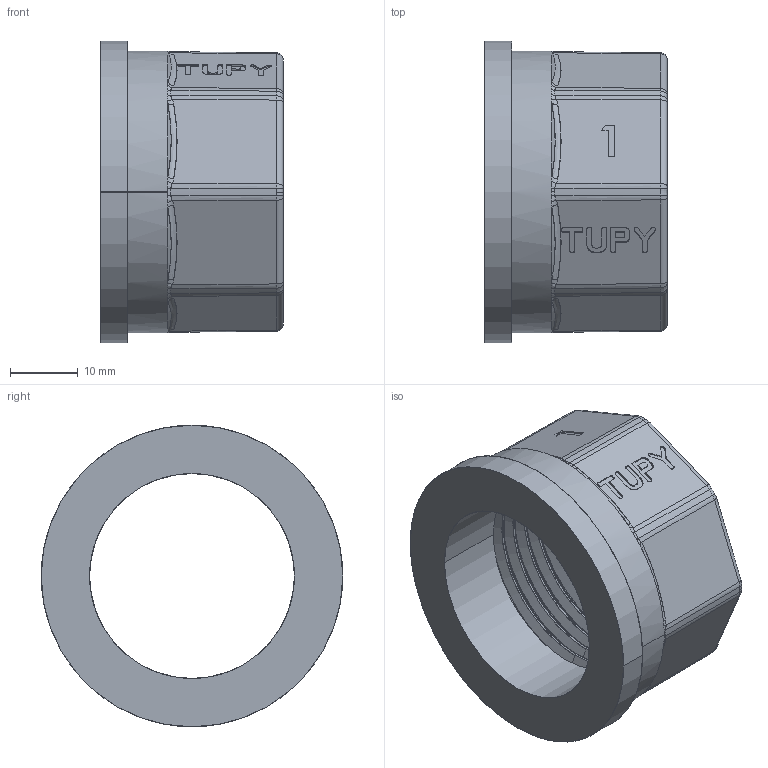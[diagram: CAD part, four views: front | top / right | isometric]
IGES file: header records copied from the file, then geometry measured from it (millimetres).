
Start section: SolidWorks IGES file using analytic representation for surfaces
Global section: file name: C:\Users\Joel Rosa\Desktop\Tubulação\12-83-OK\12-83-007.IGS; native system: SolidWorks 2011; preprocessor: SolidWorks 2011; author: Joel Rosa; date: 131216.234305; units: millimetre
Bounding box: 27 x 44.6 x 44.6 mm (x, y, z)
Surface area: 8865.3 mm2 (no closed solid volume)
Topology: 0 solids, 0 shells, 275 faces, 2112 edges, 2112 vertices
Faces by surface type: bspline 214, revolution 61
